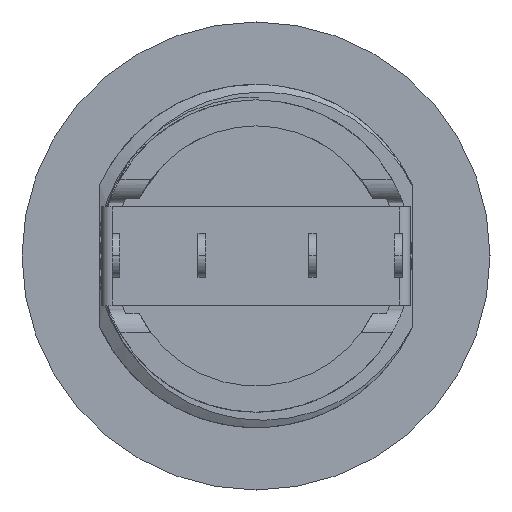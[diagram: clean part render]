
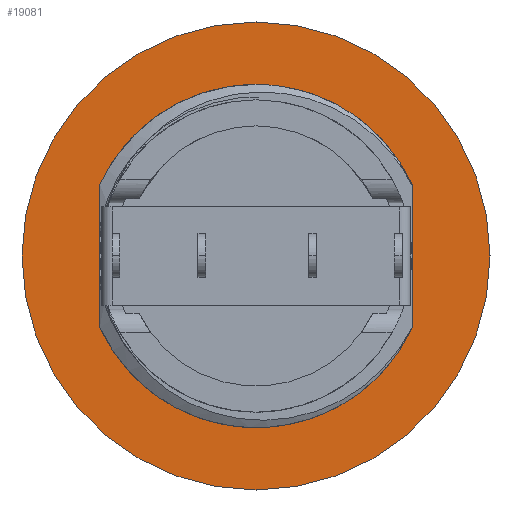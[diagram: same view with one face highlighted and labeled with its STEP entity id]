
A CAD part, front view. The second image highlights one B-rep face of the part: STEP entity #19081.
In plain terms, the highlighted planar face has unit normal (0, -1, 0).
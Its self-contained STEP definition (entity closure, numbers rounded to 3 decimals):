
#234 = DIRECTION ( 'NONE',  ( 0., 1., 0. ) ) ;
#296 = CARTESIAN_POINT ( 'NONE',  ( 0., 7., 0. ) ) ;
#635 = ORIENTED_EDGE ( 'NONE', *, *, #20317, .T. ) ;
#664 = VERTEX_POINT ( 'NONE', #20887 ) ;
#806 = VERTEX_POINT ( 'NONE', #12792 ) ;
#1013 = LINE ( 'NONE', #2372, #21671 ) ;
#1292 = DIRECTION ( 'NONE',  ( 0., 1., 0. ) ) ;
#1656 = VERTEX_POINT ( 'NONE', #15574 ) ;
#2069 = CARTESIAN_POINT ( 'NONE',  ( 0., 7., 15. ) ) ;
#2303 = DIRECTION ( 'NONE',  ( 0., 0., 1. ) ) ;
#2372 = CARTESIAN_POINT ( 'NONE',  ( -10.01, 7., 11.171 ) ) ;
#2860 = VECTOR ( 'NONE', #3268, 1000. ) ;
#3268 = DIRECTION ( 'NONE',  ( 0., 0., -1. ) ) ;
#3484 = LINE ( 'NONE', #15226, #2860 ) ;
#3533 = AXIS2_PLACEMENT_3D ( 'NONE', #17219, #1292, #15286 ) ;
#6549 = ORIENTED_EDGE ( 'NONE', *, *, #10908, .F. ) ;
#6610 = ORIENTED_EDGE ( 'NONE', *, *, #9906, .T. ) ;
#6640 = VERTEX_POINT ( 'NONE', #17412 ) ;
#6943 = CARTESIAN_POINT ( 'NONE',  ( -10.01, 7., -4.561 ) ) ;
#7071 = CARTESIAN_POINT ( 'NONE',  ( 0., 7., 0. ) ) ;
#7564 = EDGE_CURVE ( 'NONE', #13091, #806, #7875, .T. ) ;
#7875 = CIRCLE ( 'NONE', #15115, 15. ) ;
#8281 = FACE_OUTER_BOUND ( 'NONE', #20069, .T. ) ;
#8778 = ORIENTED_EDGE ( 'NONE', *, *, #13097, .T. ) ;
#9075 = DIRECTION ( 'NONE',  ( 0., 0., 1. ) ) ;
#9847 = VERTEX_POINT ( 'NONE', #19179 ) ;
#9906 = EDGE_CURVE ( 'NONE', #1656, #9847, #3484, .T. ) ;
#9971 = CIRCLE ( 'NONE', #21752, 11. ) ;
#10253 = DIRECTION ( 'NONE',  ( 0., 1., 0. ) ) ;
#10908 = EDGE_CURVE ( 'NONE', #806, #13091, #13143, .T. ) ;
#11394 = DIRECTION ( 'NONE',  ( 0., 1., 0. ) ) ;
#12194 = CARTESIAN_POINT ( 'NONE',  ( 0., 7., 0. ) ) ;
#12792 = CARTESIAN_POINT ( 'NONE',  ( 0., 7., -15. ) ) ;
#12879 = ORIENTED_EDGE ( 'NONE', *, *, #15707, .T. ) ;
#13091 = VERTEX_POINT ( 'NONE', #2069 ) ;
#13097 = EDGE_CURVE ( 'NONE', #9847, #18737, #14418, .T. ) ;
#13143 = CIRCLE ( 'NONE', #22867, 15. ) ;
#13601 = FACE_BOUND ( 'NONE', #16714, .T. ) ;
#14218 = DIRECTION ( 'NONE',  ( 0., 0., 1. ) ) ;
#14281 = DIRECTION ( 'NONE',  ( 0., 1., 0. ) ) ;
#14418 = CIRCLE ( 'NONE', #18180, 11. ) ;
#15115 = AXIS2_PLACEMENT_3D ( 'NONE', #23390, #11394, #25424 ) ;
#15226 = CARTESIAN_POINT ( 'NONE',  ( 10.01, 7., 11.171 ) ) ;
#15286 = DIRECTION ( 'NONE',  ( 0., 0., 1. ) ) ;
#15574 = CARTESIAN_POINT ( 'NONE',  ( 10.01, 7., 4.561 ) ) ;
#15707 = EDGE_CURVE ( 'NONE', #6640, #1656, #9971, .T. ) ;
#16714 = EDGE_LOOP ( 'NONE', ( #635, #12879, #6610, #8778, #17628 ) ) ;
#17219 = CARTESIAN_POINT ( 'NONE',  ( 15., 7., 0. ) ) ;
#17412 = CARTESIAN_POINT ( 'NONE',  ( 0., 7., 11. ) ) ;
#17628 = ORIENTED_EDGE ( 'NONE', *, *, #24872, .T. ) ;
#18157 = ORIENTED_EDGE ( 'NONE', *, *, #7564, .F. ) ;
#18180 = AXIS2_PLACEMENT_3D ( 'NONE', #12194, #234, #14218 ) ;
#18386 = DIRECTION ( 'NONE',  ( 0., 0., 1. ) ) ;
#18737 = VERTEX_POINT ( 'NONE', #6943 ) ;
#19081 = ADVANCED_FACE ( 'NONE', ( #8281, #13601 ), #21239, .F. ) ;
#19119 = AXIS2_PLACEMENT_3D ( 'NONE', #296, #14281, #2303 ) ;
#19179 = CARTESIAN_POINT ( 'NONE',  ( 10.01, 7., -4.561 ) ) ;
#20069 = EDGE_LOOP ( 'NONE', ( #18157, #6549 ) ) ;
#20317 = EDGE_CURVE ( 'NONE', #664, #6640, #22040, .T. ) ;
#20887 = CARTESIAN_POINT ( 'NONE',  ( -10.01, 7., 4.561 ) ) ;
#21082 = DIRECTION ( 'NONE',  ( 0., 1., 0. ) ) ;
#21239 = PLANE ( 'NONE',  #3533 ) ;
#21671 = VECTOR ( 'NONE', #18386, 1000. ) ;
#21752 = AXIS2_PLACEMENT_3D ( 'NONE', #22264, #10253, #24297 ) ;
#22040 = CIRCLE ( 'NONE', #19119, 11. ) ;
#22264 = CARTESIAN_POINT ( 'NONE',  ( 0., 7., 0. ) ) ;
#22867 = AXIS2_PLACEMENT_3D ( 'NONE', #7071, #21082, #9075 ) ;
#23390 = CARTESIAN_POINT ( 'NONE',  ( 0., 7., 0. ) ) ;
#24297 = DIRECTION ( 'NONE',  ( 0., 0., 1. ) ) ;
#24872 = EDGE_CURVE ( 'NONE', #18737, #664, #1013, .T. ) ;
#25424 = DIRECTION ( 'NONE',  ( 0., 0., 1. ) ) ;
